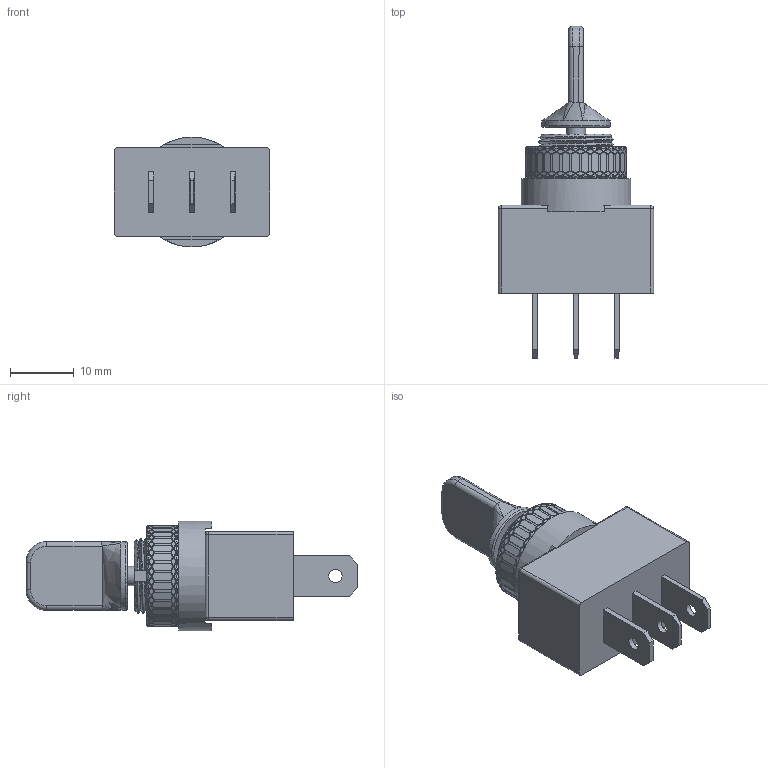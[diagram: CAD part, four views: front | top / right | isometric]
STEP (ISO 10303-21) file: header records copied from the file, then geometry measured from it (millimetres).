
FILE_DESCRIPTION(/* description */ (''),/* implementation_level */ '2;1');
FILE_NAME(/* name */ 'C:\Users\Hani\Desktop\work\TE6-1A-DC-1-GL\TE6-1A-DC-1-GL.stp',/* time_stamp */ '2023-03-03T12:01:16-08:00',/* author */ ('Hani'),/* organization */ (''),/* preprocessor_version */ 'ST-DEVELOPER v17',/* originating_system */ 'Autodesk Inventor 2019',/* authorisation */ '');
FILE_SCHEMA (('AUTOMOTIVE_DESIGN { 1 0 10303 214 3 1 1 }'));
Length unit declared in the file: inch
Products named in the file (6): TE1-1F-DC-1-PB; TE1-1F-DC-1-PB_1; TOGGLE SWITCH; Knurled NUT; keyway_nut; TOGGLE SWITCH2
Assembly tree (5 placements, depth 2):
  TE1-1F-DC-1-PB
    TE1-1F-DC-1-PB_1
    TOGGLE SWITCH
    Knurled NUT
    keyway_nut
    TOGGLE SWITCH2
Bounding box: 24.4 x 52.2 x 17.3 mm (x, y, z)
Volume: 7156.3 mm3; surface area: 5371.1 mm2
Topology: 5 solids, 5 shells, 1225 faces, 3324 edges, 2202 vertices
Faces by surface type: plane 947, cylinder 221, bspline 36, cone 10, torus 7, sphere 4
Full cylindrical faces by diameter (mm): 2.1 x3, 3 x1, 8.636 x1, 10.8 x1, 11.047 x3, 11.831 x1, 11.841 x1, 11.906 x4, 12.471 x1, 15.367 x1, 15.723 x1, 17.297 x1
Entity records: 55351 total; most frequent: CARTESIAN_POINT 23287, DIRECTION 7183, ORIENTED_EDGE 6638, EDGE_CURVE 3319, AXIS2_PLACEMENT_3D 3045, VERTEX_POINT 2202, ELLIPSE 1408, EDGE_LOOP 1335
